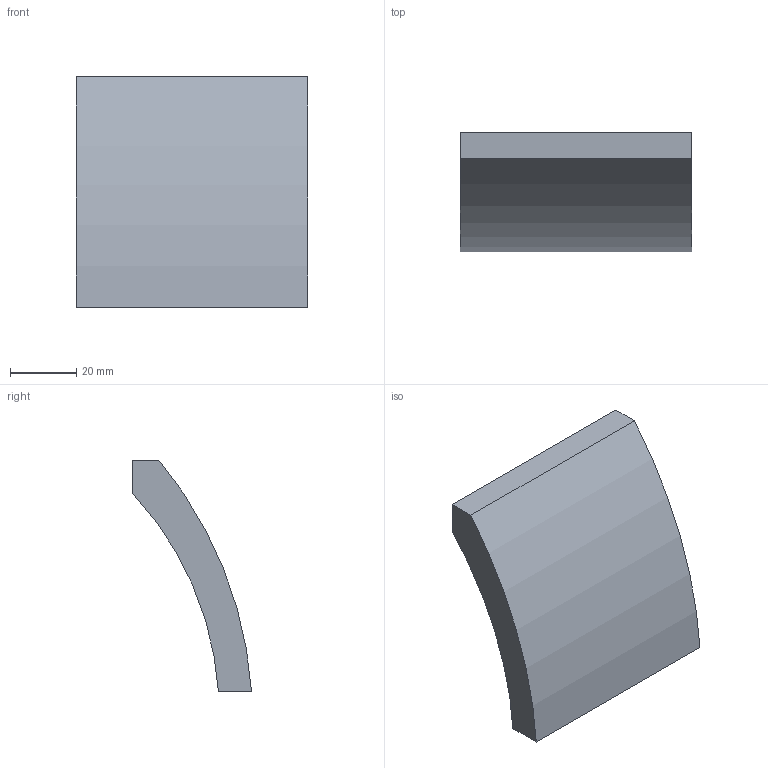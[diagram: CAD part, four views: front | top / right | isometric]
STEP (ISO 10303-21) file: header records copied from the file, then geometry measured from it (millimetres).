
FILE_DESCRIPTION( ( '' ), '1' );
FILE_NAME( 'D:/1.AUTOCAD EXPORT/Group 10/sheet_10_1/9105789.stp', '2013-10-17T05:58:07', ( '' ), ( '' ), ' ', ' ', ' ' );
FILE_SCHEMA( ( 'automotive_design' ) );
Length unit declared in the file: millimetre
Products named in the file (1): 1
Bounding box: 70 x 36 x 70 mm (x, y, z)
Volume: 56677.8 mm3; surface area: 13819.2 mm2
Topology: 1 solids, 1 shells, 13 faces, 27 edges, 18 vertices
Faces by surface type: plane 7, cylinder 6
Entity records: 706 total; most frequent: DIRECTION 67, STYLED_ITEM 59, PRESENTATION_STYLE_ASSIGNMENT 59, CARTESIAN_POINT 59, COLOUR_RGB 59, ORIENTED_EDGE 54, EDGE_CURVE 27, CURVE_STYLE 27
